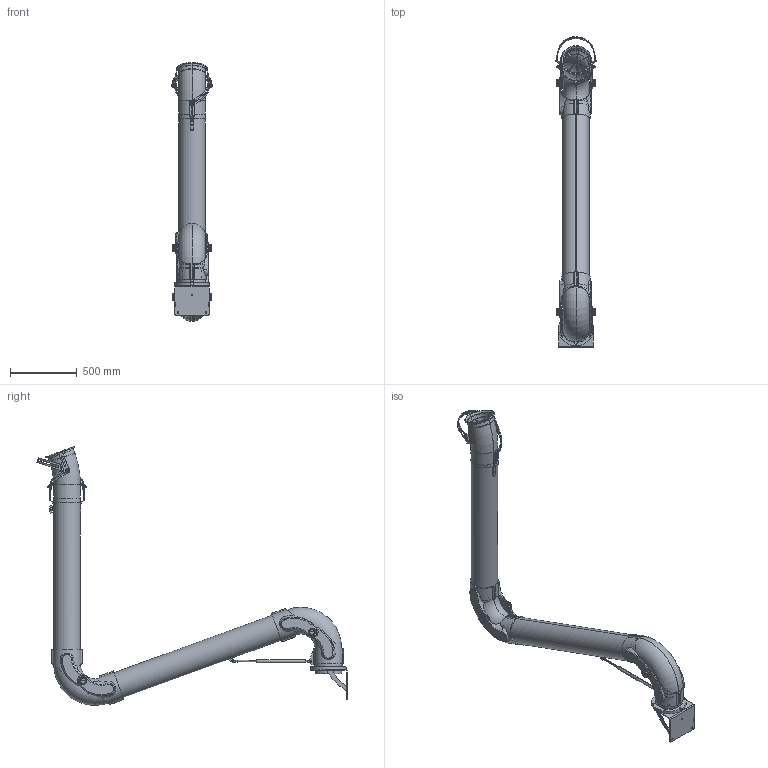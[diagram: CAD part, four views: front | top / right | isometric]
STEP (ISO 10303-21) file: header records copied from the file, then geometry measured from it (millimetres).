
FILE_DESCRIPTION((''),'2;1');
FILE_NAME('124978','2019-03-11T10:21:39',('Gustav Stenberg'),(''),'CREO PARAMETRIC BY PTC INC, 2018260','CREO PARAMETRIC BY PTC INC, 2018260','');
FILE_SCHEMA(('AUTOMOTIVE_DESIGN { 1 0 10303 214 1 1 1 1 }'));
Length unit declared in the file: millimetre
Products named in the file (43): LIGHT_SWIVEL_200_AF0; 126195; G_PRX_SVIVEL_SPRINGMOUNT; 138753; 124040; 124041; 105-5481_1; 101156_1; 124045_AF14; 124045_AF15; 124045_AF16; 124045_AF17; 124888; 124897; 124867; 125076; 124875; 124954; 126055_AF18; 124967_AF0; 142700; 142474; 199-808-200; 142440; 142441; 142492; 142859; 128231; 126057_AF0; 143145; 143004; 100-5835; 142482; 126055_AF17; 129694; G_GAS_SPRING_FORK_MOUNT; 126093; GAS_SPRING_ROD_BANSBACH; 102811-REF; 124366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
Assembly tree (61 placements, depth 5):
  124978
    138753
      126195
        LIGHT_SWIVEL_200_AF0
      G_PRX_SVIVEL_SPRINGMOUNT
    124045_AF14
      124040
      124041
      101156_1
        105-5481_1
    124045_AF15
      124040
      124041
      101156_1
        105-5481_1
    124967_AF0
      124045_AF16
        124040
        124041
        101156_1
          105-5481_1
      124045_AF17
        124040
        124041
        101156_1
          105-5481_1
      124888
      124954
        124897
        124875
          124867
          125076
      126055_AF18
    142482
      142700  x2
      142474  x2
      142859
        199-808-200
        142440
        142441
        142492
      128231
      126057_AF0
      143145  x4
      143004  x4
      100-5835
    126055_AF17
    126093
      129694
      G_GAS_SPRING_FORK_MOUNT
    102811-REF
      GAS_SPRING_ROD_BANSBACH
      G_GAS_SPRING_FORK_MOUNT
    124365
      124366
      123045  x2
Bounding box: 302.11 x 2326.49 x 1940.83 mm (x, y, z)
Volume: 14632238.6 mm3; surface area: 6816278.4 mm2
Topology: 46 solids, 46 shells, 1173 faces, 2941 edges, 1909 vertices
Faces by surface type: plane 470, cylinder 431, cone 112, bspline 94, torus 42, sphere 24
Entity records: 36971 total; most frequent: CARTESIAN_POINT 10324, DIRECTION 4122, ORIENTED_EDGE 3768, EDGE_CURVE 1884, AXIS2_PLACEMENT_3D 1571, PRESENTATION_STYLE_ASSIGNMENT 1459, STYLED_ITEM 1459, VERTEX_POINT 1175
